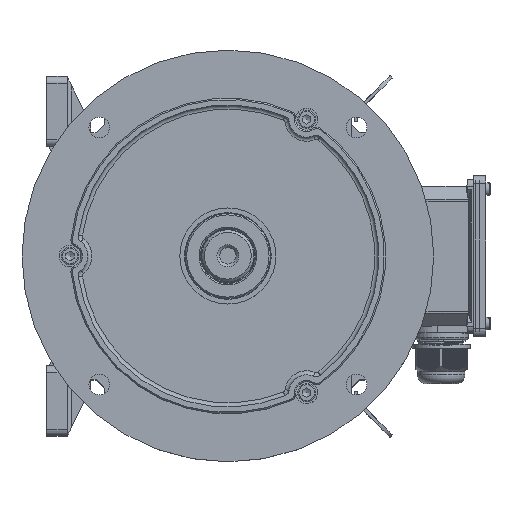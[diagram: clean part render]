
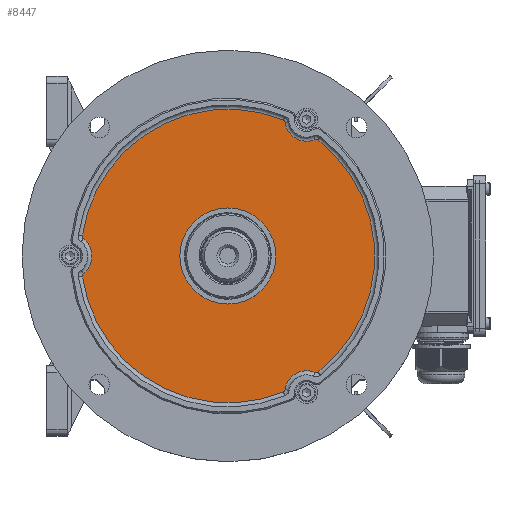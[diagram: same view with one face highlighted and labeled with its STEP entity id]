
A CAD part, top view. The second image highlights one B-rep face of the part: STEP entity #8447.
In plain terms, the highlighted planar face has unit normal (0, 0, 1).
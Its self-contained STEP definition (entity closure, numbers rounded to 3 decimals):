
#2976=FACE_BOUND('',#19980,.T.);
#2977=FACE_BOUND('',#19981,.T.);
#8447=ADVANCED_FACE('',(#2976,#2977),#11463,.F.);
#11463=PLANE('',#83173);
#19980=EDGE_LOOP('',(#43305));
#19981=EDGE_LOOP('',(#43306,#43307,#43308,#43309,#43310,#43311,#43312,#43313,
#43314,#43315,#43316,#43317));
#22556=CIRCLE('',#83151,107.);
#22559=CIRCLE('',#83155,107.);
#22561=CIRCLE('',#83158,107.);
#22565=CIRCLE('',#83163,35.);
#22566=CIRCLE('',#83164,16.);
#22567=CIRCLE('',#83165,2.);
#22568=CIRCLE('',#83166,2.);
#22569=CIRCLE('',#83167,16.);
#22570=CIRCLE('',#83168,2.);
#22571=CIRCLE('',#83169,2.);
#22572=CIRCLE('',#83170,16.);
#22573=CIRCLE('',#83171,2.);
#22574=CIRCLE('',#83172,2.);
#43305=ORIENTED_EDGE('',*,*,#62414,.F.);
#43306=ORIENTED_EDGE('',*,*,#62415,.T.);
#43307=ORIENTED_EDGE('',*,*,#62416,.T.);
#43308=ORIENTED_EDGE('',*,*,#62410,.T.);
#43309=ORIENTED_EDGE('',*,*,#62417,.T.);
#43310=ORIENTED_EDGE('',*,*,#62418,.T.);
#43311=ORIENTED_EDGE('',*,*,#62419,.T.);
#43312=ORIENTED_EDGE('',*,*,#62408,.T.);
#43313=ORIENTED_EDGE('',*,*,#62420,.T.);
#43314=ORIENTED_EDGE('',*,*,#62421,.T.);
#43315=ORIENTED_EDGE('',*,*,#62422,.T.);
#43316=ORIENTED_EDGE('',*,*,#62405,.T.);
#43317=ORIENTED_EDGE('',*,*,#62423,.T.);
#51767=VERTEX_POINT('',#139289);
#51768=VERTEX_POINT('',#139291);
#51769=VERTEX_POINT('',#139295);
#51770=VERTEX_POINT('',#139297);
#51771=VERTEX_POINT('',#139301);
#51772=VERTEX_POINT('',#139302);
#51775=VERTEX_POINT('',#139310);
#51776=VERTEX_POINT('',#139312);
#51777=VERTEX_POINT('',#139313);
#51778=VERTEX_POINT('',#139316);
#51779=VERTEX_POINT('',#139318);
#51780=VERTEX_POINT('',#139321);
#51781=VERTEX_POINT('',#139323);
#62405=EDGE_CURVE('',#51768,#51767,#22556,.T.);
#62408=EDGE_CURVE('',#51770,#51769,#22559,.T.);
#62410=EDGE_CURVE('',#51771,#51772,#22561,.T.);
#62414=EDGE_CURVE('',#51775,#51775,#22565,.T.);
#62415=EDGE_CURVE('',#51776,#51777,#22566,.T.);
#62416=EDGE_CURVE('',#51777,#51771,#22567,.T.);
#62417=EDGE_CURVE('',#51772,#51778,#22568,.T.);
#62418=EDGE_CURVE('',#51778,#51779,#22569,.T.);
#62419=EDGE_CURVE('',#51779,#51770,#22570,.T.);
#62420=EDGE_CURVE('',#51769,#51780,#22571,.T.);
#62421=EDGE_CURVE('',#51780,#51781,#22572,.T.);
#62422=EDGE_CURVE('',#51781,#51768,#22573,.T.);
#62423=EDGE_CURVE('',#51767,#51776,#22574,.T.);
#83151=AXIS2_PLACEMENT_3D('',#139290,#102720,#102721);
#83155=AXIS2_PLACEMENT_3D('',#139296,#102728,#102729);
#83158=AXIS2_PLACEMENT_3D('',#139300,#102734,#102735);
#83163=AXIS2_PLACEMENT_3D('',#139309,#102744,#102745);
#83164=AXIS2_PLACEMENT_3D('',#139311,#102746,#102747);
#83165=AXIS2_PLACEMENT_3D('',#139314,#102748,#102749);
#83166=AXIS2_PLACEMENT_3D('',#139315,#102750,#102751);
#83167=AXIS2_PLACEMENT_3D('',#139317,#102752,#102753);
#83168=AXIS2_PLACEMENT_3D('',#139319,#102754,#102755);
#83169=AXIS2_PLACEMENT_3D('',#139320,#102756,#102757);
#83170=AXIS2_PLACEMENT_3D('',#139322,#102758,#102759);
#83171=AXIS2_PLACEMENT_3D('',#139324,#102760,#102761);
#83172=AXIS2_PLACEMENT_3D('',#139325,#102762,#102763);
#83173=AXIS2_PLACEMENT_3D('',#139326,#102764,#102765);
#102720=DIRECTION('',(0.,0.,1.));
#102721=DIRECTION('',(0.,-1.,0.));
#102728=DIRECTION('',(0.,0.,1.));
#102729=DIRECTION('',(0.,-1.,0.));
#102734=DIRECTION('',(0.,0.,1.));
#102735=DIRECTION('',(0.,-1.,0.));
#102744=DIRECTION('',(0.,0.,1.));
#102745=DIRECTION('',(0.,-1.,0.));
#102746=DIRECTION('',(0.,0.,-1.));
#102747=DIRECTION('',(0.,1.,0.));
#102748=DIRECTION('',(0.,0.,1.));
#102749=DIRECTION('',(0.,1.,0.));
#102750=DIRECTION('',(0.,0.,1.));
#102751=DIRECTION('',(0.,1.,0.));
#102752=DIRECTION('',(0.,0.,-1.));
#102753=DIRECTION('',(0.,1.,0.));
#102754=DIRECTION('',(0.,0.,1.));
#102755=DIRECTION('',(0.,1.,0.));
#102756=DIRECTION('',(0.,0.,1.));
#102757=DIRECTION('',(0.,1.,0.));
#102758=DIRECTION('',(0.,0.,-1.));
#102759=DIRECTION('',(0.,1.,0.));
#102760=DIRECTION('',(0.,0.,1.));
#102761=DIRECTION('',(0.,1.,0.));
#102762=DIRECTION('',(0.,0.,1.));
#102763=DIRECTION('',(0.,1.,0.));
#102764=DIRECTION('',(0.,0.,-1.));
#102765=DIRECTION('',(0.,1.,0.));
#139289=CARTESIAN_POINT('',(-106.008,14.54,277.));
#139290=CARTESIAN_POINT('',(0.,0.,277.));
#139291=CARTESIAN_POINT('',(40.412,99.075,277.));
#139295=CARTESIAN_POINT('',(65.596,84.535,277.));
#139296=CARTESIAN_POINT('',(0.,0.,277.));
#139297=CARTESIAN_POINT('',(65.595,-84.535,277.));
#139300=CARTESIAN_POINT('',(0.,0.,277.));
#139301=CARTESIAN_POINT('',(-106.008,-14.54,277.));
#139302=CARTESIAN_POINT('',(40.412,-99.075,277.));
#139309=CARTESIAN_POINT('',(0.,0.,277.));
#139310=CARTESIAN_POINT('',(0.,-35.,277.));
#139311=CARTESIAN_POINT('',(-115.,0.,277.));
#139312=CARTESIAN_POINT('',(-105.245,12.683,277.));
#139313=CARTESIAN_POINT('',(-105.245,-12.683,277.));
#139314=CARTESIAN_POINT('',(-104.026,-14.268,277.));
#139315=CARTESIAN_POINT('',(39.657,-97.223,277.));
#139316=CARTESIAN_POINT('',(41.639,-97.486,277.));
#139317=CARTESIAN_POINT('',(57.5,-99.593,277.));
#139318=CARTESIAN_POINT('',(63.606,-84.804,277.));
#139319=CARTESIAN_POINT('',(64.369,-82.955,277.));
#139320=CARTESIAN_POINT('',(64.369,82.955,277.));
#139321=CARTESIAN_POINT('',(63.606,84.804,277.));
#139322=CARTESIAN_POINT('',(57.5,99.593,277.));
#139323=CARTESIAN_POINT('',(41.639,97.486,277.));
#139324=CARTESIAN_POINT('',(39.657,97.223,277.));
#139325=CARTESIAN_POINT('',(-104.026,14.268,277.));
#139326=CARTESIAN_POINT('',(107.,0.,277.));
